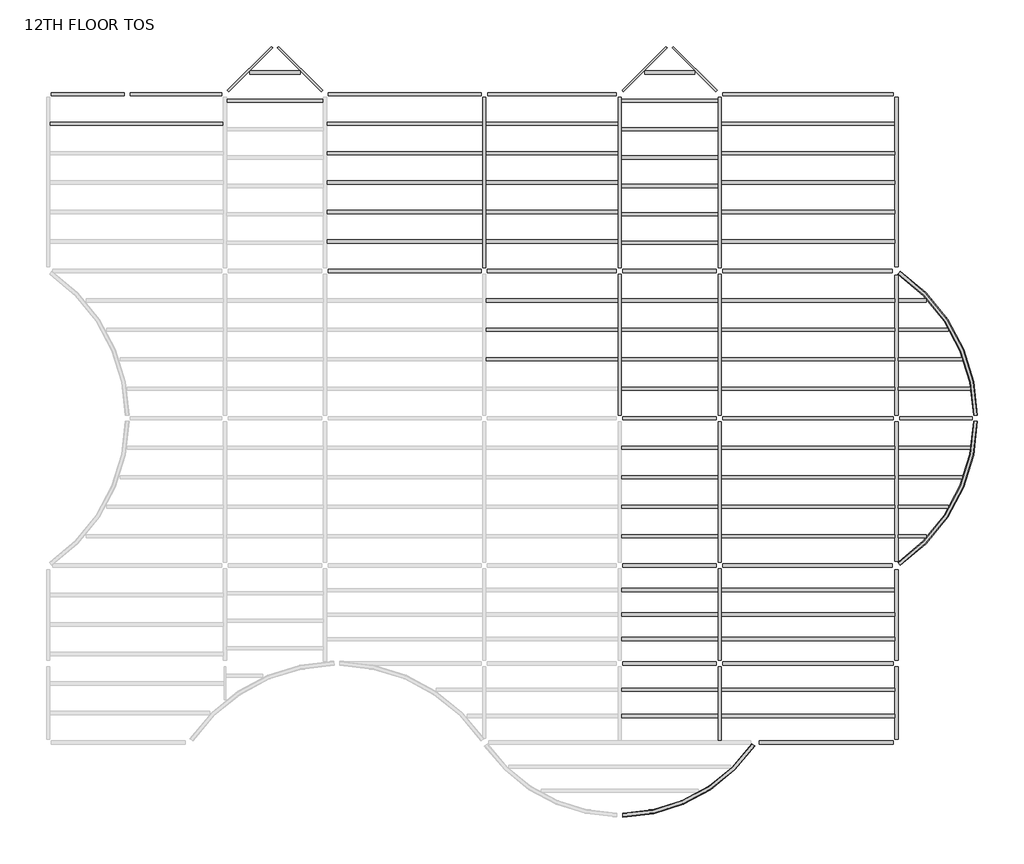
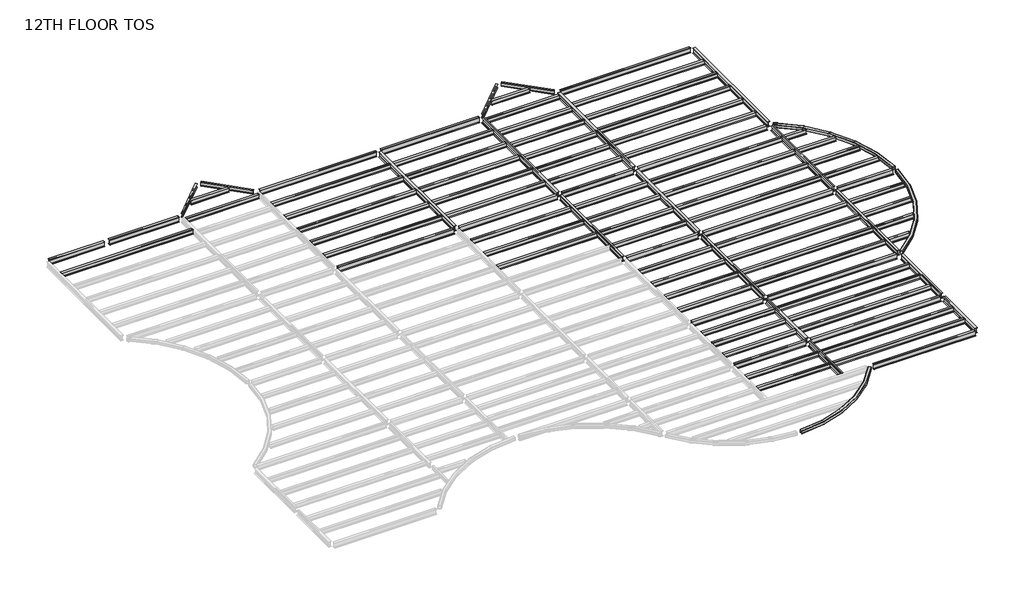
# One storey, part 2 of 2: 99 beams.
"""IFC4 building model written with IfcOpenShell, lengths in millimetres."""

from ifc_helpers import new_model, si_unit, origin, place, context, project, spatial, transform, mapped, element, save
from components import m_hss_square_hss203_2x203_2x9_5_28e91a4e, m_hss_square_hss203_2x203_2x9_5_f31329aa, m_hss_square_hss203_2x203_2x9_5_63507dff, ub_universal_beams_ub254x102x28_7812688d, ub_universal_beams_ub254x102x28_4a38c177, ub_universal_beams_ub305x165x40_c4d0385b, ub_universal_beams_ub305x165x40_19965e16, ub_universal_beams_ub305x165x40_d3abc31d, ub_universal_beams_ub305x165x40_0c73730f, ub_universal_beams_ub305x165x40_2a963f0c, ub_universal_beams_ub305x165x40_9ce7f2ee, ub_universal_beams_ub305x165x40_d184adfd, ub_universal_beams_ub305x165x40_bc7dc938, ub_universal_beams_ub305x165x40_b4233d25, ub_universal_beams_ub356x171x51_c708c058, ub_universal_beams_ub356x171x51_ef72dcdd, ub_universal_beams_ub356x171x51_10b3c54f, ub_universal_beams_ub356x171x51_4c9fd821, ub_universal_beams_ub356x171x51_d1a87c3c, ub_universal_beams_ub356x171x51_fa75724b, ub_universal_beams_ub356x171x51_68db896e, ub_universal_beams_ub356x171x51_c634c4a6, ub_universal_beams_ub356x171x51_995f1560, ub_universal_beams_ub356x171x51_dfc36663, ub_universal_beams_ub356x171x51_11d6b780, ub_universal_beams_ub356x171x51_76b2d20b, ub_universal_beams_ub356x171x51_145ecd4b, ub_universal_beams_ub356x171x51_c7dff8d2, ub_universal_beams_ub356x171x51_8a345439, ub_universal_beams_ub356x171x51_6da510e9, ub_universal_beams_ub356x171x51_e97f8d2e, ub_universal_beams_ub356x171x51_a38b99de, ub_universal_beams_ub356x171x51_d8f4cdde, ub_universal_beams_ub356x171x51_475301e6, ub_universal_beams_ub356x171x51_c03c70fb, ub_universal_beams_ub356x171x51_741bae58

model = new_model("IFC4")

# Units and contexts
model_context = context("Model", 3, world=origin())
ifc_project = project(units=[si_unit("LENGTHUNIT", "METRE", prefix="MILLI")], contexts=[model_context])

# Site, building, storey
site = spatial("IfcSite", under=ifc_project)
building = spatial("IfcBuilding", under=site)
storey = spatial("IfcBuildingStorey", under=building, Name="12TH FLOOR TOS", Elevation=54711.6)

# Beams
placement = place(None, origin())
m_hss_square_hss203_2x203_2x9_5_shape = m_hss_square_hss203_2x203_2x9_5_28e91a4e(model_context)
element("IfcBeam", 1, ObjectType="M_HSS Square : HSS203.2X203.2X9.5", at=placement, inside=storey, context=model_context, shape_type="MappedRepresentation", body=[
    mapped(m_hss_square_hss203_2x203_2x9_5_shape, transform((44027.575, 24539.575, 54610.1), x_axis=(0.8332810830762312, -0.5528495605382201, 0.0), y_axis=(0.5528495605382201, 0.8332810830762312, 0.0), z_axis=(0.0, 0.0, 1.0))),
])
m_hss_square_hss203_2x203_2x9_5_2_shape = m_hss_square_hss203_2x203_2x9_5_f31329aa(model_context)
element("IfcBeam", 2, ObjectType="M_HSS Square : HSS203.2X203.2X9.5", at=placement, inside=storey, context=model_context, shape_type="MappedRepresentation", body=[
    mapped(m_hss_square_hss203_2x203_2x9_5_2_shape, transform((44027.575, 9299.575, 54610.1), x_axis=(0.8332810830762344, 0.5528495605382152, 0.0), y_axis=(-0.5528495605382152, 0.8332810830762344, 0.0), z_axis=(0.0, 0.0, 1.0))),
])
m_hss_square_hss203_2x203_2x9_5_3_shape = m_hss_square_hss203_2x203_2x9_5_63507dff(model_context)
element("IfcBeam", 3, ObjectType="M_HSS Square : HSS203.2X203.2X9.5", at=placement, inside=storey, context=model_context, shape_type="MappedRepresentation", body=[
    mapped(m_hss_square_hss203_2x203_2x9_5_3_shape, transform((36716.575, 155.575, 54610.1), x_axis=(-0.5530174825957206, -0.8331696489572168, 0.0), y_axis=(0.8331696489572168, -0.5530174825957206, 0.0), z_axis=(0.0, 0.0, 1.0))),
])
ub_universal_beams_ub254x102x28_shape = ub_universal_beams_ub254x102x28_7812688d(model_context)
element("IfcBeam", 4, ObjectType="UB-Universal Beams : UB254x102x28", at=placement, inside=storey, context=model_context, shape_type="MappedRepresentation", body=[
    mapped(ub_universal_beams_ub254x102x28_shape, transform((10592.575, 34976.575, 54581.4), x_axis=(0.7071067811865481, 0.7071067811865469, 0.0), y_axis=(-0.7071067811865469, 0.7071067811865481, 0.0), z_axis=(0.0, 0.0, 1.0))),
])
element("IfcBeam", 5, ObjectType="UB-Universal Beams : UB254x102x28", at=placement, inside=storey, context=model_context, shape_type="MappedRepresentation", body=[
    mapped(ub_universal_beams_ub254x102x28_shape, transform((31004.575, 34976.575, 54581.4), x_axis=(0.7071067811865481, 0.7071067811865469, 0.0), y_axis=(-0.7071067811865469, 0.7071067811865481, 0.0), z_axis=(0.0, 0.0, 1.0))),
])
ub_universal_beams_ub254x102x28_2_shape = ub_universal_beams_ub254x102x28_4a38c177(model_context)
element("IfcBeam", 6, ObjectType="UB-Universal Beams : UB254x102x28", at=placement, inside=storey, context=model_context, shape_type="MappedRepresentation", body=[
    mapped(ub_universal_beams_ub254x102x28_2_shape, transform((13178.575, 34976.575, 54581.4), x_axis=(0.707106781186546, -0.707106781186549, 0.0), y_axis=(0.707106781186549, 0.707106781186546, 0.0), z_axis=(0.0, 0.0, 1.0))),
])
element("IfcBeam", 7, ObjectType="UB-Universal Beams : UB254x102x28", at=placement, inside=storey, context=model_context, shape_type="MappedRepresentation", body=[
    mapped(ub_universal_beams_ub254x102x28_2_shape, transform((33590.575, 34976.575, 54581.4), x_axis=(0.7071067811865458, -0.7071067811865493, 0.0), y_axis=(0.7071067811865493, 0.7071067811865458, 0.0), z_axis=(0.0, 0.0, 1.0))),
])
ub_universal_beams_ub305x165x40_shape = ub_universal_beams_ub305x165x40_c4d0385b(model_context)
element("IfcBeam", 8, ObjectType="UB-Universal Beams : UB305x165x40", at=placement, inside=storey, context=model_context, shape_type="MappedRepresentation", body=[
    mapped(ub_universal_beams_ub305x165x40_shape, transform((4727.575, 32159.575, 54559.9), x_axis=(1.0, 0.0, 0.0), y_axis=(0.0, 1.0, 0.0), z_axis=(0.0, 0.0, 1.0))),
])
element("IfcBeam", 9, ObjectType="UB-Universal Beams : UB305x165x40", at=placement, inside=storey, context=model_context, shape_type="MappedRepresentation", body=[
    mapped(ub_universal_beams_ub305x165x40_shape, transform((39455.575, 32159.575, 54559.9), x_axis=(1.0, 0.0, 0.0), y_axis=(0.0, 1.0, 0.0), z_axis=(0.0, 0.0, 1.0))),
])
element("IfcBeam", 10, ObjectType="UB-Universal Beams : UB305x165x40", at=placement, inside=storey, context=model_context, shape_type="MappedRepresentation", body=[
    mapped(ub_universal_beams_ub305x165x40_shape, transform((39455.575, 30635.575, 54559.9), x_axis=(1.0, 0.0, 0.0), y_axis=(0.0, 1.0, 0.0), z_axis=(0.0, 0.0, 1.0))),
])
element("IfcBeam", 11, ObjectType="UB-Universal Beams : UB305x165x40", at=placement, inside=storey, context=model_context, shape_type="MappedRepresentation", body=[
    mapped(ub_universal_beams_ub305x165x40_shape, transform((39455.575, 29111.575, 54559.9), x_axis=(1.0, 0.0, 0.0), y_axis=(0.0, 1.0, 0.0), z_axis=(0.0, 0.0, 1.0))),
])
element("IfcBeam", 12, ObjectType="UB-Universal Beams : UB305x165x40", at=placement, inside=storey, context=model_context, shape_type="MappedRepresentation", body=[
    mapped(ub_universal_beams_ub305x165x40_shape, transform((39455.575, 27587.575, 54559.9), x_axis=(1.0, 0.0, 0.0), y_axis=(0.0, 1.0, 0.0), z_axis=(0.0, 0.0, 1.0))),
])
element("IfcBeam", 13, ObjectType="UB-Universal Beams : UB305x165x40", at=placement, inside=storey, context=model_context, shape_type="MappedRepresentation", body=[
    mapped(ub_universal_beams_ub305x165x40_shape, transform((39455.575, 26063.575, 54559.9), x_axis=(1.0, 0.0, 0.0), y_axis=(0.0, 1.0, 0.0), z_axis=(0.0, 0.0, 1.0))),
])
element("IfcBeam", 14, ObjectType="UB-Universal Beams : UB305x165x40", at=placement, inside=storey, context=model_context, shape_type="MappedRepresentation", body=[
    mapped(ub_universal_beams_ub305x165x40_shape, transform((39455.575, 23015.575, 54559.9), x_axis=(1.0, 0.0, 0.0), y_axis=(0.0, 1.0, 0.0), z_axis=(0.0, 0.0, 1.0))),
])
element("IfcBeam", 15, ObjectType="UB-Universal Beams : UB305x165x40", at=placement, inside=storey, context=model_context, shape_type="MappedRepresentation", body=[
    mapped(ub_universal_beams_ub305x165x40_shape, transform((39455.575, 21491.575, 54559.9), x_axis=(1.0, 0.0, 0.0), y_axis=(0.0, 1.0, 0.0), z_axis=(0.0, 0.0, 1.0))),
])
element("IfcBeam", 16, ObjectType="UB-Universal Beams : UB305x165x40", at=placement, inside=storey, context=model_context, shape_type="MappedRepresentation", body=[
    mapped(ub_universal_beams_ub305x165x40_shape, transform((39455.575, 19967.575, 54559.9), x_axis=(1.0, 0.0, 0.0), y_axis=(0.0, 1.0, 0.0), z_axis=(0.0, 0.0, 1.0))),
])
element("IfcBeam", 17, ObjectType="UB-Universal Beams : UB305x165x40", at=placement, inside=storey, context=model_context, shape_type="MappedRepresentation", body=[
    mapped(ub_universal_beams_ub305x165x40_shape, transform((39455.575, 18443.575, 54559.9), x_axis=(1.0, 0.0, 0.0), y_axis=(0.0, 1.0, 0.0), z_axis=(0.0, 0.0, 1.0))),
])
element("IfcBeam", 18, ObjectType="UB-Universal Beams : UB305x165x40", at=placement, inside=storey, context=model_context, shape_type="MappedRepresentation", body=[
    mapped(ub_universal_beams_ub305x165x40_shape, transform((39455.575, 15395.575, 54559.9), x_axis=(1.0, 0.0, 0.0), y_axis=(0.0, 1.0, 0.0), z_axis=(0.0, 0.0, 1.0))),
])
element("IfcBeam", 19, ObjectType="UB-Universal Beams : UB305x165x40", at=placement, inside=storey, context=model_context, shape_type="MappedRepresentation", body=[
    mapped(ub_universal_beams_ub305x165x40_shape, transform((39455.575, 13871.575, 54559.9), x_axis=(1.0, 0.0, 0.0), y_axis=(0.0, 1.0, 0.0), z_axis=(0.0, 0.0, 1.0))),
])
element("IfcBeam", 20, ObjectType="UB-Universal Beams : UB305x165x40", at=placement, inside=storey, context=model_context, shape_type="MappedRepresentation", body=[
    mapped(ub_universal_beams_ub305x165x40_shape, transform((39455.575, 12347.575, 54559.9), x_axis=(1.0, 0.0, 0.0), y_axis=(0.0, 1.0, 0.0), z_axis=(0.0, 0.0, 1.0))),
])
element("IfcBeam", 21, ObjectType="UB-Universal Beams : UB305x165x40", at=placement, inside=storey, context=model_context, shape_type="MappedRepresentation", body=[
    mapped(ub_universal_beams_ub305x165x40_shape, transform((39455.575, 10823.575, 54559.9), x_axis=(1.0, 0.0, 0.0), y_axis=(0.0, 1.0, 0.0), z_axis=(0.0, 0.0, 1.0))),
])
element("IfcBeam", 22, ObjectType="UB-Universal Beams : UB305x165x40", at=placement, inside=storey, context=model_context, shape_type="MappedRepresentation", body=[
    mapped(ub_universal_beams_ub305x165x40_shape, transform((39455.575, 5508.325, 54559.9), x_axis=(-1.0, 0.0, 0.0), y_axis=(0.0, -1.0, 0.0), z_axis=(0.0, 0.0, 1.0))),
])
element("IfcBeam", 23, ObjectType="UB-Universal Beams : UB305x165x40", at=placement, inside=storey, context=model_context, shape_type="MappedRepresentation", body=[
    mapped(ub_universal_beams_ub305x165x40_shape, transform((39455.575, 6772.075, 54559.9), x_axis=(-1.0, 0.0, 0.0), y_axis=(0.0, -1.0, 0.0), z_axis=(0.0, 0.0, 1.0))),
])
element("IfcBeam", 24, ObjectType="UB-Universal Beams : UB305x165x40", at=placement, inside=storey, context=model_context, shape_type="MappedRepresentation", body=[
    mapped(ub_universal_beams_ub305x165x40_shape, transform((39455.575, 8035.825, 54559.9), x_axis=(-1.0, 0.0, 0.0), y_axis=(0.0, -1.0, 0.0), z_axis=(0.0, 0.0, 1.0))),
])
element("IfcBeam", 25, ObjectType="UB-Universal Beams : UB305x165x40", at=placement, inside=storey, context=model_context, shape_type="MappedRepresentation", body=[
    mapped(ub_universal_beams_ub305x165x40_shape, transform((39455.575, 1518.575, 54559.9), x_axis=(-1.0, 0.0, 0.0), y_axis=(0.0, -1.0, 0.0), z_axis=(0.0, 0.0, 1.0))),
])
element("IfcBeam", 26, ObjectType="UB-Universal Beams : UB305x165x40", at=placement, inside=storey, context=model_context, shape_type="MappedRepresentation", body=[
    mapped(ub_universal_beams_ub305x165x40_shape, transform((39455.575, 2881.575, 54559.9), x_axis=(-1.0, 0.0, 0.0), y_axis=(0.0, -1.0, 0.0), z_axis=(0.0, 0.0, 1.0))),
])
ub_universal_beams_ub305x165x40_2_shape = ub_universal_beams_ub305x165x40_19965e16(model_context)
element("IfcBeam", 27, ObjectType="UB-Universal Beams : UB305x165x40", at=placement, inside=storey, context=model_context, shape_type="MappedRepresentation", body=[
    mapped(ub_universal_beams_ub305x165x40_2_shape, transform((11885.575, 34803.325, 54559.9), x_axis=(1.0, 0.0, 0.0), y_axis=(0.0, 1.0, 0.0), z_axis=(0.0, 0.0, 1.0))),
])
element("IfcBeam", 28, ObjectType="UB-Universal Beams : UB305x165x40", at=placement, inside=storey, context=model_context, shape_type="MappedRepresentation", body=[
    mapped(ub_universal_beams_ub305x165x40_2_shape, transform((32297.575, 34803.325, 54559.9), x_axis=(1.0, 0.0, 0.0), y_axis=(0.0, 1.0, 0.0), z_axis=(0.0, 0.0, 1.0))),
])
ub_universal_beams_ub305x165x40_3_shape = ub_universal_beams_ub305x165x40_d3abc31d(model_context)
element("IfcBeam", 29, ObjectType="UB-Universal Beams : UB305x165x40", at=placement, inside=storey, context=model_context, shape_type="MappedRepresentation", body=[
    mapped(ub_universal_beams_ub305x165x40_3_shape, transform((11885.575, 33337.075, 54559.9), x_axis=(1.0, 0.0, 0.0), y_axis=(0.0, 1.0, 0.0), z_axis=(0.0, 0.0, 1.0))),
])
element("IfcBeam", 30, ObjectType="UB-Universal Beams : UB305x165x40", at=placement, inside=storey, context=model_context, shape_type="MappedRepresentation", body=[
    mapped(ub_universal_beams_ub305x165x40_3_shape, transform((32297.575, 33337.075, 54559.9), x_axis=(1.0, 0.0, 0.0), y_axis=(0.0, 1.0, 0.0), z_axis=(0.0, 0.0, 1.0))),
])
element("IfcBeam", 31, ObjectType="UB-Universal Beams : UB305x165x40", at=placement, inside=storey, context=model_context, shape_type="MappedRepresentation", body=[
    mapped(ub_universal_beams_ub305x165x40_3_shape, transform((32297.575, 31870.825, 54559.9), x_axis=(1.0, 0.0, 0.0), y_axis=(0.0, 1.0, 0.0), z_axis=(0.0, 0.0, 1.0))),
])
element("IfcBeam", 32, ObjectType="UB-Universal Beams : UB305x165x40", at=placement, inside=storey, context=model_context, shape_type="MappedRepresentation", body=[
    mapped(ub_universal_beams_ub305x165x40_3_shape, transform((32297.575, 30404.575, 54559.9), x_axis=(1.0, 0.0, 0.0), y_axis=(0.0, 1.0, 0.0), z_axis=(0.0, 0.0, 1.0))),
])
element("IfcBeam", 33, ObjectType="UB-Universal Beams : UB305x165x40", at=placement, inside=storey, context=model_context, shape_type="MappedRepresentation", body=[
    mapped(ub_universal_beams_ub305x165x40_3_shape, transform((32297.575, 28938.325, 54559.9), x_axis=(1.0, 0.0, 0.0), y_axis=(0.0, 1.0, 0.0), z_axis=(0.0, 0.0, 1.0))),
])
element("IfcBeam", 34, ObjectType="UB-Universal Beams : UB305x165x40", at=placement, inside=storey, context=model_context, shape_type="MappedRepresentation", body=[
    mapped(ub_universal_beams_ub305x165x40_3_shape, transform((32297.575, 27472.075, 54559.9), x_axis=(1.0, 0.0, 0.0), y_axis=(0.0, 1.0, 0.0), z_axis=(0.0, 0.0, 1.0))),
])
element("IfcBeam", 35, ObjectType="UB-Universal Beams : UB305x165x40", at=placement, inside=storey, context=model_context, shape_type="MappedRepresentation", body=[
    mapped(ub_universal_beams_ub305x165x40_3_shape, transform((32297.575, 26005.825, 54559.9), x_axis=(1.0, 0.0, 0.0), y_axis=(0.0, 1.0, 0.0), z_axis=(0.0, 0.0, 1.0))),
])
element("IfcBeam", 36, ObjectType="UB-Universal Beams : UB305x165x40", at=placement, inside=storey, context=model_context, shape_type="MappedRepresentation", body=[
    mapped(ub_universal_beams_ub305x165x40_3_shape, transform((32297.575, 1518.575, 54559.9), x_axis=(-1.0, 0.0, 0.0), y_axis=(0.0, -1.0, 0.0), z_axis=(0.0, 0.0, 1.0))),
])
element("IfcBeam", 37, ObjectType="UB-Universal Beams : UB305x165x40", at=placement, inside=storey, context=model_context, shape_type="MappedRepresentation", body=[
    mapped(ub_universal_beams_ub305x165x40_3_shape, transform((32297.575, 2881.575, 54559.9), x_axis=(-1.0, 0.0, 0.0), y_axis=(0.0, -1.0, 0.0), z_axis=(0.0, 0.0, 1.0))),
])
element("IfcBeam", 38, ObjectType="UB-Universal Beams : UB305x165x40", at=placement, inside=storey, context=model_context, shape_type="MappedRepresentation", body=[
    mapped(ub_universal_beams_ub305x165x40_3_shape, transform((32297.575, 5508.325, 54559.9), x_axis=(-1.0, 0.0, 0.0), y_axis=(0.0, -1.0, 0.0), z_axis=(0.0, 0.0, 1.0))),
])
element("IfcBeam", 39, ObjectType="UB-Universal Beams : UB305x165x40", at=placement, inside=storey, context=model_context, shape_type="MappedRepresentation", body=[
    mapped(ub_universal_beams_ub305x165x40_3_shape, transform((32297.575, 6772.075, 54559.9), x_axis=(-1.0, 0.0, 0.0), y_axis=(0.0, -1.0, 0.0), z_axis=(0.0, 0.0, 1.0))),
])
element("IfcBeam", 40, ObjectType="UB-Universal Beams : UB305x165x40", at=placement, inside=storey, context=model_context, shape_type="MappedRepresentation", body=[
    mapped(ub_universal_beams_ub305x165x40_3_shape, transform((32297.575, 8035.825, 54559.9), x_axis=(-1.0, 0.0, 0.0), y_axis=(0.0, -1.0, 0.0), z_axis=(0.0, 0.0, 1.0))),
])
element("IfcBeam", 41, ObjectType="UB-Universal Beams : UB305x165x40", at=placement, inside=storey, context=model_context, shape_type="MappedRepresentation", body=[
    mapped(ub_universal_beams_ub305x165x40_3_shape, transform((32297.575, 15395.575, 54559.9), x_axis=(1.0, 0.0, 0.0), y_axis=(0.0, 1.0, 0.0), z_axis=(0.0, 0.0, 1.0))),
])
element("IfcBeam", 42, ObjectType="UB-Universal Beams : UB305x165x40", at=placement, inside=storey, context=model_context, shape_type="MappedRepresentation", body=[
    mapped(ub_universal_beams_ub305x165x40_3_shape, transform((32297.575, 13871.575, 54559.9), x_axis=(1.0, 0.0, 0.0), y_axis=(0.0, 1.0, 0.0), z_axis=(0.0, 0.0, 1.0))),
])
element("IfcBeam", 43, ObjectType="UB-Universal Beams : UB305x165x40", at=placement, inside=storey, context=model_context, shape_type="MappedRepresentation", body=[
    mapped(ub_universal_beams_ub305x165x40_3_shape, transform((32297.575, 12347.575, 54559.9), x_axis=(1.0, 0.0, 0.0), y_axis=(0.0, 1.0, 0.0), z_axis=(0.0, 0.0, 1.0))),
])
element("IfcBeam", 44, ObjectType="UB-Universal Beams : UB305x165x40", at=placement, inside=storey, context=model_context, shape_type="MappedRepresentation", body=[
    mapped(ub_universal_beams_ub305x165x40_3_shape, transform((32297.575, 10823.575, 54559.9), x_axis=(1.0, 0.0, 0.0), y_axis=(0.0, 1.0, 0.0), z_axis=(0.0, 0.0, 1.0))),
])
element("IfcBeam", 45, ObjectType="UB-Universal Beams : UB305x165x40", at=placement, inside=storey, context=model_context, shape_type="MappedRepresentation", body=[
    mapped(ub_universal_beams_ub305x165x40_3_shape, transform((32297.575, 23015.575, 54559.9), x_axis=(1.0, 0.0, 0.0), y_axis=(0.0, 1.0, 0.0), z_axis=(0.0, 0.0, 1.0))),
])
element("IfcBeam", 46, ObjectType="UB-Universal Beams : UB305x165x40", at=placement, inside=storey, context=model_context, shape_type="MappedRepresentation", body=[
    mapped(ub_universal_beams_ub305x165x40_3_shape, transform((32297.575, 21491.575, 54559.9), x_axis=(1.0, 0.0, 0.0), y_axis=(0.0, 1.0, 0.0), z_axis=(0.0, 0.0, 1.0))),
])
element("IfcBeam", 47, ObjectType="UB-Universal Beams : UB305x165x40", at=placement, inside=storey, context=model_context, shape_type="MappedRepresentation", body=[
    mapped(ub_universal_beams_ub305x165x40_3_shape, transform((32297.575, 19967.575, 54559.9), x_axis=(1.0, 0.0, 0.0), y_axis=(0.0, 1.0, 0.0), z_axis=(0.0, 0.0, 1.0))),
])
element("IfcBeam", 48, ObjectType="UB-Universal Beams : UB305x165x40", at=placement, inside=storey, context=model_context, shape_type="MappedRepresentation", body=[
    mapped(ub_universal_beams_ub305x165x40_3_shape, transform((32297.575, 18443.575, 54559.9), x_axis=(1.0, 0.0, 0.0), y_axis=(0.0, 1.0, 0.0), z_axis=(0.0, 0.0, 1.0))),
])
ub_universal_beams_ub305x165x40_4_shape = ub_universal_beams_ub305x165x40_0c73730f(model_context)
element("IfcBeam", 49, ObjectType="UB-Universal Beams : UB305x165x40", at=placement, inside=storey, context=model_context, shape_type="MappedRepresentation", body=[
    mapped(ub_universal_beams_ub305x165x40_4_shape, transform((18591.075, 32159.575, 54559.9), x_axis=(1.0, 0.0, 0.0), y_axis=(0.0, 1.0, 0.0), z_axis=(0.0, 0.0, 1.0))),
])
element("IfcBeam", 50, ObjectType="UB-Universal Beams : UB305x165x40", at=placement, inside=storey, context=model_context, shape_type="MappedRepresentation", body=[
    mapped(ub_universal_beams_ub305x165x40_4_shape, transform((18591.075, 30635.575, 54559.9), x_axis=(1.0, 0.0, 0.0), y_axis=(0.0, 1.0, 0.0), z_axis=(0.0, 0.0, 1.0))),
])
element("IfcBeam", 51, ObjectType="UB-Universal Beams : UB305x165x40", at=placement, inside=storey, context=model_context, shape_type="MappedRepresentation", body=[
    mapped(ub_universal_beams_ub305x165x40_4_shape, transform((18591.075, 29111.575, 54559.9), x_axis=(1.0, 0.0, 0.0), y_axis=(0.0, 1.0, 0.0), z_axis=(0.0, 0.0, 1.0))),
])
element("IfcBeam", 52, ObjectType="UB-Universal Beams : UB305x165x40", at=placement, inside=storey, context=model_context, shape_type="MappedRepresentation", body=[
    mapped(ub_universal_beams_ub305x165x40_4_shape, transform((18591.075, 27587.575, 54559.9), x_axis=(1.0, 0.0, 0.0), y_axis=(0.0, 1.0, 0.0), z_axis=(0.0, 0.0, 1.0))),
])
element("IfcBeam", 53, ObjectType="UB-Universal Beams : UB305x165x40", at=placement, inside=storey, context=model_context, shape_type="MappedRepresentation", body=[
    mapped(ub_universal_beams_ub305x165x40_4_shape, transform((18591.075, 26063.575, 54559.9), x_axis=(1.0, 0.0, 0.0), y_axis=(0.0, 1.0, 0.0), z_axis=(0.0, 0.0, 1.0))),
])
ub_universal_beams_ub305x165x40_5_shape = ub_universal_beams_ub305x165x40_2a963f0c(model_context)
element("IfcBeam", 54, ObjectType="UB-Universal Beams : UB305x165x40", at=placement, inside=storey, context=model_context, shape_type="MappedRepresentation", body=[
    mapped(ub_universal_beams_ub305x165x40_5_shape, transform((26211.075, 32159.575, 54559.9), x_axis=(1.0, 0.0, 0.0), y_axis=(0.0, 1.0, 0.0), z_axis=(0.0, 0.0, 1.0))),
])
element("IfcBeam", 55, ObjectType="UB-Universal Beams : UB305x165x40", at=placement, inside=storey, context=model_context, shape_type="MappedRepresentation", body=[
    mapped(ub_universal_beams_ub305x165x40_5_shape, transform((26211.075, 30635.575, 54559.9), x_axis=(1.0, 0.0, 0.0), y_axis=(0.0, 1.0, 0.0), z_axis=(0.0, 0.0, 1.0))),
])
element("IfcBeam", 56, ObjectType="UB-Universal Beams : UB305x165x40", at=placement, inside=storey, context=model_context, shape_type="MappedRepresentation", body=[
    mapped(ub_universal_beams_ub305x165x40_5_shape, transform((26211.075, 29111.575, 54559.9), x_axis=(1.0, 0.0, 0.0), y_axis=(0.0, 1.0, 0.0), z_axis=(0.0, 0.0, 1.0))),
])
element("IfcBeam", 57, ObjectType="UB-Universal Beams : UB305x165x40", at=placement, inside=storey, context=model_context, shape_type="MappedRepresentation", body=[
    mapped(ub_universal_beams_ub305x165x40_5_shape, transform((26211.075, 27587.575, 54559.9), x_axis=(1.0, 0.0, 0.0), y_axis=(0.0, 1.0, 0.0), z_axis=(0.0, 0.0, 1.0))),
])
element("IfcBeam", 58, ObjectType="UB-Universal Beams : UB305x165x40", at=placement, inside=storey, context=model_context, shape_type="MappedRepresentation", body=[
    mapped(ub_universal_beams_ub305x165x40_5_shape, transform((26211.075, 26063.575, 54559.9), x_axis=(1.0, 0.0, 0.0), y_axis=(0.0, 1.0, 0.0), z_axis=(0.0, 0.0, 1.0))),
])
element("IfcBeam", 59, ObjectType="UB-Universal Beams : UB305x165x40", at=placement, inside=storey, context=model_context, shape_type="MappedRepresentation", body=[
    mapped(ub_universal_beams_ub305x165x40_5_shape, transform((26211.075, 23015.575, 54559.9), x_axis=(1.0, 0.0, 0.0), y_axis=(0.0, 1.0, 0.0), z_axis=(0.0, 0.0, 1.0))),
])
element("IfcBeam", 60, ObjectType="UB-Universal Beams : UB305x165x40", at=placement, inside=storey, context=model_context, shape_type="MappedRepresentation", body=[
    mapped(ub_universal_beams_ub305x165x40_5_shape, transform((26211.075, 21491.575, 54559.9), x_axis=(1.0, 0.0, 0.0), y_axis=(0.0, 1.0, 0.0), z_axis=(0.0, 0.0, 1.0))),
])
element("IfcBeam", 61, ObjectType="UB-Universal Beams : UB305x165x40", at=placement, inside=storey, context=model_context, shape_type="MappedRepresentation", body=[
    mapped(ub_universal_beams_ub305x165x40_5_shape, transform((26211.075, 19967.575, 54559.9), x_axis=(1.0, 0.0, 0.0), y_axis=(0.0, 1.0, 0.0), z_axis=(0.0, 0.0, 1.0))),
])
ub_universal_beams_ub305x165x40_6_shape = ub_universal_beams_ub305x165x40_9ce7f2ee(model_context)
element("IfcBeam", 62, ObjectType="UB-Universal Beams : UB305x165x40", at=placement, inside=storey, context=model_context, shape_type="MappedRepresentation", body=[
    mapped(ub_universal_beams_ub305x165x40_6_shape, transform((44907.9405309, 23015.575, 54559.9), x_axis=(1.0, 0.0, 0.0), y_axis=(0.0, 1.0, 0.0), z_axis=(0.0, 0.0, 1.0))),
])
element("IfcBeam", 63, ObjectType="UB-Universal Beams : UB305x165x40", at=placement, inside=storey, context=model_context, shape_type="MappedRepresentation", body=[
    mapped(ub_universal_beams_ub305x165x40_6_shape, transform((44907.9405309, 10823.575, 54559.9), x_axis=(1.0, 0.0, 0.0), y_axis=(0.0, 1.0, 0.0), z_axis=(0.0, 0.0, 1.0))),
])
ub_universal_beams_ub305x165x40_7_shape = ub_universal_beams_ub305x165x40_d184adfd(model_context)
element("IfcBeam", 64, ObjectType="UB-Universal Beams : UB305x165x40", at=placement, inside=storey, context=model_context, shape_type="MappedRepresentation", body=[
    mapped(ub_universal_beams_ub305x165x40_7_shape, transform((45459.5874928, 21491.575, 54559.9), x_axis=(1.0, 0.0, 0.0), y_axis=(0.0, 1.0, 0.0), z_axis=(0.0, 0.0, 1.0))),
])
element("IfcBeam", 65, ObjectType="UB-Universal Beams : UB305x165x40", at=placement, inside=storey, context=model_context, shape_type="MappedRepresentation", body=[
    mapped(ub_universal_beams_ub305x165x40_7_shape, transform((45459.5874928, 12347.575, 54559.9), x_axis=(1.0, 0.0, 0.0), y_axis=(0.0, 1.0, 0.0), z_axis=(0.0, 0.0, 1.0))),
])
ub_universal_beams_ub305x165x40_8_shape = ub_universal_beams_ub305x165x40_bc7dc938(model_context)
element("IfcBeam", 66, ObjectType="UB-Universal Beams : UB305x165x40", at=placement, inside=storey, context=model_context, shape_type="MappedRepresentation", body=[
    mapped(ub_universal_beams_ub305x165x40_8_shape, transform((45810.6153272, 19967.575, 54559.9), x_axis=(1.0, 0.0, 0.0), y_axis=(0.0, 1.0, 0.0), z_axis=(0.0, 0.0, 1.0))),
])
element("IfcBeam", 67, ObjectType="UB-Universal Beams : UB305x165x40", at=placement, inside=storey, context=model_context, shape_type="MappedRepresentation", body=[
    mapped(ub_universal_beams_ub305x165x40_8_shape, transform((45810.6153272, 13871.575, 54559.9), x_axis=(1.0, 0.0, 0.0), y_axis=(0.0, 1.0, 0.0), z_axis=(0.0, 0.0, 1.0))),
])
ub_universal_beams_ub305x165x40_9_shape = ub_universal_beams_ub305x165x40_b4233d25(model_context)
element("IfcBeam", 68, ObjectType="UB-Universal Beams : UB305x165x40", at=placement, inside=storey, context=model_context, shape_type="MappedRepresentation", body=[
    mapped(ub_universal_beams_ub305x165x40_9_shape, transform((46008.1318611, 18443.575, 54559.9), x_axis=(1.0, 0.0, 0.0), y_axis=(0.0, 1.0, 0.0), z_axis=(0.0, 0.0, 1.0))),
])
element("IfcBeam", 69, ObjectType="UB-Universal Beams : UB305x165x40", at=placement, inside=storey, context=model_context, shape_type="MappedRepresentation", body=[
    mapped(ub_universal_beams_ub305x165x40_9_shape, transform((46008.1318611, 15395.575, 54559.9), x_axis=(1.0, 0.0, 0.0), y_axis=(0.0, 1.0, 0.0), z_axis=(0.0, 0.0, 1.0))),
])
ub_universal_beams_ub356x171x51_shape = ub_universal_beams_ub356x171x51_c708c058(model_context)
element("IfcBeam", 70, ObjectType="UB-Universal Beams : UB356x171x51", at=placement, inside=storey, context=model_context, shape_type="MappedRepresentation", body=[
    mapped(ub_universal_beams_ub356x171x51_shape, transform((2200.075, 33683.575, 54534.1), x_axis=(1.0, 0.0, 0.0), y_axis=(0.0, 1.0, 0.0), z_axis=(0.0, 0.0, 1.0))),
])
ub_universal_beams_ub356x171x51_2_shape = ub_universal_beams_ub356x171x51_ef72dcdd(model_context)
element("IfcBeam", 71, ObjectType="UB-Universal Beams : UB356x171x51", at=placement, inside=storey, context=model_context, shape_type="MappedRepresentation", body=[
    mapped(ub_universal_beams_ub356x171x51_2_shape, transform((6772.075, 33683.575, 54534.1), x_axis=(1.0, 0.0, 0.0), y_axis=(0.0, 1.0, 0.0), z_axis=(0.0, 0.0, 1.0))),
])
element("IfcBeam", 72, ObjectType="UB-Universal Beams : UB356x171x51", at=placement, inside=storey, context=model_context, shape_type="MappedRepresentation", body=[
    mapped(ub_universal_beams_ub356x171x51_2_shape, transform((34883.575, 6772.075, 54534.1), x_axis=(0.0, -1.0, 0.0), y_axis=(1.0, 0.0, 0.0), z_axis=(0.0, 0.0, 1.0))),
])
ub_universal_beams_ub356x171x51_3_shape = ub_universal_beams_ub356x171x51_10b3c54f(model_context)
element("IfcBeam", 73, ObjectType="UB-Universal Beams : UB356x171x51", at=placement, inside=storey, context=model_context, shape_type="MappedRepresentation", body=[
    mapped(ub_universal_beams_ub356x171x51_3_shape, transform((18591.075, 33683.575, 54534.1), x_axis=(1.0, 0.0, 0.0), y_axis=(0.0, 1.0, 0.0), z_axis=(0.0, 0.0, 1.0))),
])
ub_universal_beams_ub356x171x51_4_shape = ub_universal_beams_ub356x171x51_4c9fd821(model_context)
element("IfcBeam", 74, ObjectType="UB-Universal Beams : UB356x171x51", at=placement, inside=storey, context=model_context, shape_type="MappedRepresentation", body=[
    mapped(ub_universal_beams_ub356x171x51_4_shape, transform((26211.075, 33683.575, 54534.1), x_axis=(1.0, 0.0, 0.0), y_axis=(0.0, 1.0, 0.0), z_axis=(0.0, 0.0, 1.0))),
])
ub_universal_beams_ub356x171x51_5_shape = ub_universal_beams_ub356x171x51_d1a87c3c(model_context)
element("IfcBeam", 75, ObjectType="UB-Universal Beams : UB356x171x51", at=placement, inside=storey, context=model_context, shape_type="MappedRepresentation", body=[
    mapped(ub_universal_beams_ub356x171x51_5_shape, transform((39455.575, 33683.575, 54534.1), x_axis=(1.0, 0.0, 0.0), y_axis=(0.0, 1.0, 0.0), z_axis=(0.0, 0.0, 1.0))),
])
ub_universal_beams_ub356x171x51_6_shape = ub_universal_beams_ub356x171x51_fa75724b(model_context)
element("IfcBeam", 76, ObjectType="UB-Universal Beams : UB356x171x51", at=placement, inside=storey, context=model_context, shape_type="MappedRepresentation", body=[
    mapped(ub_universal_beams_ub356x171x51_6_shape, transform((44027.575, 29111.575, 54534.1), x_axis=(0.0, -1.0, 0.0), y_axis=(1.0, 0.0, 0.0), z_axis=(0.0, 0.0, 1.0))),
])
ub_universal_beams_ub356x171x51_7_shape = ub_universal_beams_ub356x171x51_68db896e(model_context)
element("IfcBeam", 77, ObjectType="UB-Universal Beams : UB356x171x51", at=placement, inside=storey, context=model_context, shape_type="MappedRepresentation", body=[
    mapped(ub_universal_beams_ub356x171x51_7_shape, transform((44027.575, 6772.075, 54534.1), x_axis=(0.0, -1.0, 0.0), y_axis=(1.0, 0.0, 0.0), z_axis=(0.0, 0.0, 1.0))),
])
ub_universal_beams_ub356x171x51_8_shape = ub_universal_beams_ub356x171x51_c634c4a6(model_context)
element("IfcBeam", 78, ObjectType="UB-Universal Beams : UB356x171x51", at=placement, inside=storey, context=model_context, shape_type="MappedRepresentation", body=[
    mapped(ub_universal_beams_ub356x171x51_8_shape, transform((44027.575, 2200.075, 54534.1), x_axis=(0.0, -1.0, 0.0), y_axis=(1.0, 0.0, 0.0), z_axis=(0.0, 0.0, 1.0))),
])
ub_universal_beams_ub356x171x51_9_shape = ub_universal_beams_ub356x171x51_995f1560(model_context)
element("IfcBeam", 79, ObjectType="UB-Universal Beams : UB356x171x51", at=placement, inside=storey, context=model_context, shape_type="MappedRepresentation", body=[
    mapped(ub_universal_beams_ub356x171x51_9_shape, transform((40372.075, 155.575, 54534.1), x_axis=(-1.0, 0.0, 0.0), y_axis=(0.0, -1.0, 0.0), z_axis=(0.0, 0.0, 1.0))),
])
ub_universal_beams_ub356x171x51_10_shape = ub_universal_beams_ub356x171x51_dfc36663(model_context)
element("IfcBeam", 80, ObjectType="UB-Universal Beams : UB356x171x51", at=placement, inside=storey, context=model_context, shape_type="MappedRepresentation", body=[
    mapped(ub_universal_beams_ub356x171x51_10_shape, transform((46072.075, 16919.575, 54534.1), x_axis=(1.0, 0.0, 0.0), y_axis=(0.0, 1.0, 0.0), z_axis=(0.0, 0.0, 1.0))),
])
ub_universal_beams_ub356x171x51_11_shape = ub_universal_beams_ub356x171x51_11d6b780(model_context)
element("IfcBeam", 81, ObjectType="UB-Universal Beams : UB356x171x51", at=placement, inside=storey, context=model_context, shape_type="MappedRepresentation", body=[
    mapped(ub_universal_beams_ub356x171x51_11_shape, transform((32297.575, 24539.575, 54534.1), x_axis=(1.0, 0.0, 0.0), y_axis=(0.0, 1.0, 0.0), z_axis=(0.0, 0.0, 1.0))),
])
element("IfcBeam", 82, ObjectType="UB-Universal Beams : UB356x171x51", at=placement, inside=storey, context=model_context, shape_type="MappedRepresentation", body=[
    mapped(ub_universal_beams_ub356x171x51_11_shape, transform((32297.575, 9299.575, 54534.1), x_axis=(-1.0, 0.0, 0.0), y_axis=(0.0, -1.0, 0.0), z_axis=(0.0, 0.0, 1.0))),
])
element("IfcBeam", 83, ObjectType="UB-Universal Beams : UB356x171x51", at=placement, inside=storey, context=model_context, shape_type="MappedRepresentation", body=[
    mapped(ub_universal_beams_ub356x171x51_11_shape, transform((32297.575, 16919.575, 54534.1), x_axis=(1.0, 0.0, 0.0), y_axis=(0.0, 1.0, 0.0), z_axis=(0.0, 0.0, 1.0))),
])
element("IfcBeam", 84, ObjectType="UB-Universal Beams : UB356x171x51", at=placement, inside=storey, context=model_context, shape_type="MappedRepresentation", body=[
    mapped(ub_universal_beams_ub356x171x51_11_shape, transform((32297.575, 4244.575, 54534.1), x_axis=(-1.0, 0.0, 0.0), y_axis=(0.0, -1.0, 0.0), z_axis=(0.0, 0.0, 1.0))),
])
ub_universal_beams_ub356x171x51_12_shape = ub_universal_beams_ub356x171x51_76b2d20b(model_context)
element("IfcBeam", 85, ObjectType="UB-Universal Beams : UB356x171x51", at=placement, inside=storey, context=model_context, shape_type="MappedRepresentation", body=[
    mapped(ub_universal_beams_ub356x171x51_12_shape, transform((18591.075, 24539.575, 54534.1), x_axis=(1.0, 0.0, 0.0), y_axis=(0.0, 1.0, 0.0), z_axis=(0.0, 0.0, 1.0))),
])
ub_universal_beams_ub356x171x51_13_shape = ub_universal_beams_ub356x171x51_145ecd4b(model_context)
element("IfcBeam", 86, ObjectType="UB-Universal Beams : UB356x171x51", at=placement, inside=storey, context=model_context, shape_type="MappedRepresentation", body=[
    mapped(ub_universal_beams_ub356x171x51_13_shape, transform((26211.075, 24539.575, 54534.1), x_axis=(1.0, 0.0, 0.0), y_axis=(0.0, 1.0, 0.0), z_axis=(0.0, 0.0, 1.0))),
])
ub_universal_beams_ub356x171x51_14_shape = ub_universal_beams_ub356x171x51_c7dff8d2(model_context)
element("IfcBeam", 87, ObjectType="UB-Universal Beams : UB356x171x51", at=placement, inside=storey, context=model_context, shape_type="MappedRepresentation", body=[
    mapped(ub_universal_beams_ub356x171x51_14_shape, transform((39455.575, 24539.575, 54534.1), x_axis=(1.0, 0.0, 0.0), y_axis=(0.0, 1.0, 0.0), z_axis=(0.0, 0.0, 1.0))),
])
ub_universal_beams_ub356x171x51_15_shape = ub_universal_beams_ub356x171x51_8a345439(model_context)
element("IfcBeam", 88, ObjectType="UB-Universal Beams : UB356x171x51", at=placement, inside=storey, context=model_context, shape_type="MappedRepresentation", body=[
    mapped(ub_universal_beams_ub356x171x51_15_shape, transform((44027.575, 20729.575, 54534.1), x_axis=(0.0, -1.0, 0.0), y_axis=(1.0, 0.0, 0.0), z_axis=(0.0, 0.0, 1.0))),
])
ub_universal_beams_ub356x171x51_16_shape = ub_universal_beams_ub356x171x51_6da510e9(model_context)
element("IfcBeam", 89, ObjectType="UB-Universal Beams : UB356x171x51", at=placement, inside=storey, context=model_context, shape_type="MappedRepresentation", body=[
    mapped(ub_universal_beams_ub356x171x51_16_shape, transform((44027.575, 13109.575, 54534.1), x_axis=(0.0, -1.0, 0.0), y_axis=(1.0, 0.0, 0.0), z_axis=(0.0, 0.0, 1.0))),
])
ub_universal_beams_ub356x171x51_17_shape = ub_universal_beams_ub356x171x51_e97f8d2e(model_context)
element("IfcBeam", 90, ObjectType="UB-Universal Beams : UB356x171x51", at=placement, inside=storey, context=model_context, shape_type="MappedRepresentation", body=[
    mapped(ub_universal_beams_ub356x171x51_17_shape, transform((39455.575, 9299.575, 54534.1), x_axis=(-1.0, 0.0, 0.0), y_axis=(0.0, -1.0, 0.0), z_axis=(0.0, 0.0, 1.0))),
])
ub_universal_beams_ub356x171x51_18_shape = ub_universal_beams_ub356x171x51_a38b99de(model_context)
element("IfcBeam", 91, ObjectType="UB-Universal Beams : UB356x171x51", at=placement, inside=storey, context=model_context, shape_type="MappedRepresentation", body=[
    mapped(ub_universal_beams_ub356x171x51_18_shape, transform((34883.575, 20729.575, 54534.1), x_axis=(0.0, -1.0, 0.0), y_axis=(1.0, 0.0, 0.0), z_axis=(0.0, 0.0, 1.0))),
])
element("IfcBeam", 92, ObjectType="UB-Universal Beams : UB356x171x51", at=placement, inside=storey, context=model_context, shape_type="MappedRepresentation", body=[
    mapped(ub_universal_beams_ub356x171x51_18_shape, transform((34883.575, 13109.575, 54534.1), x_axis=(0.0, -1.0, 0.0), y_axis=(1.0, 0.0, 0.0), z_axis=(0.0, 0.0, 1.0))),
])
element("IfcBeam", 93, ObjectType="UB-Universal Beams : UB356x171x51", at=placement, inside=storey, context=model_context, shape_type="MappedRepresentation", body=[
    mapped(ub_universal_beams_ub356x171x51_18_shape, transform((29711.575, 20729.575, 54534.1), x_axis=(0.0, 1.0, 0.0), y_axis=(-1.0, 0.0, 0.0), z_axis=(0.0, 0.0, 1.0))),
])
ub_universal_beams_ub356x171x51_19_shape = ub_universal_beams_ub356x171x51_d8f4cdde(model_context)
element("IfcBeam", 94, ObjectType="UB-Universal Beams : UB356x171x51", at=placement, inside=storey, context=model_context, shape_type="MappedRepresentation", body=[
    mapped(ub_universal_beams_ub356x171x51_19_shape, transform((29711.575, 29111.575, 54534.1), x_axis=(0.0, 1.0, 0.0), y_axis=(-1.0, 0.0, 0.0), z_axis=(0.0, 0.0, 1.0))),
])
ub_universal_beams_ub356x171x51_20_shape = ub_universal_beams_ub356x171x51_475301e6(model_context)
element("IfcBeam", 95, ObjectType="UB-Universal Beams : UB356x171x51", at=placement, inside=storey, context=model_context, shape_type="MappedRepresentation", body=[
    mapped(ub_universal_beams_ub356x171x51_20_shape, transform((39455.575, 16919.575, 54534.1), x_axis=(1.0, 0.0, 0.0), y_axis=(0.0, 1.0, 0.0), z_axis=(0.0, 0.0, 1.0))),
])
element("IfcBeam", 96, ObjectType="UB-Universal Beams : UB356x171x51", at=placement, inside=storey, context=model_context, shape_type="MappedRepresentation", body=[
    mapped(ub_universal_beams_ub356x171x51_20_shape, transform((39455.575, 4244.575, 54534.1), x_axis=(-1.0, 0.0, 0.0), y_axis=(0.0, -1.0, 0.0), z_axis=(0.0, 0.0, 1.0))),
])
ub_universal_beams_ub356x171x51_21_shape = ub_universal_beams_ub356x171x51_c03c70fb(model_context)
element("IfcBeam", 97, ObjectType="UB-Universal Beams : UB356x171x51", at=placement, inside=storey, context=model_context, shape_type="MappedRepresentation", body=[
    mapped(ub_universal_beams_ub356x171x51_21_shape, transform((34883.575, 29111.575, 54534.1), x_axis=(0.0, -1.0, 0.0), y_axis=(1.0, 0.0, 0.0), z_axis=(0.0, 0.0, 1.0))),
])
element("IfcBeam", 98, ObjectType="UB-Universal Beams : UB356x171x51", at=placement, inside=storey, context=model_context, shape_type="MappedRepresentation", body=[
    mapped(ub_universal_beams_ub356x171x51_21_shape, transform((22710.575, 29111.575, 54534.1), x_axis=(0.0, -1.0, 0.0), y_axis=(1.0, 0.0, 0.0), z_axis=(0.0, 0.0, 1.0))),
])
ub_universal_beams_ub356x171x51_22_shape = ub_universal_beams_ub356x171x51_741bae58(model_context)
element("IfcBeam", 99, ObjectType="UB-Universal Beams : UB356x171x51", at=placement, inside=storey, context=model_context, shape_type="MappedRepresentation", body=[
    mapped(ub_universal_beams_ub356x171x51_22_shape, transform((34883.575, 2200.075, 54534.1), x_axis=(0.0, -1.0, 0.0), y_axis=(1.0, 0.0, 0.0), z_axis=(0.0, 0.0, 1.0))),
])

save(model, "model.ifc")
